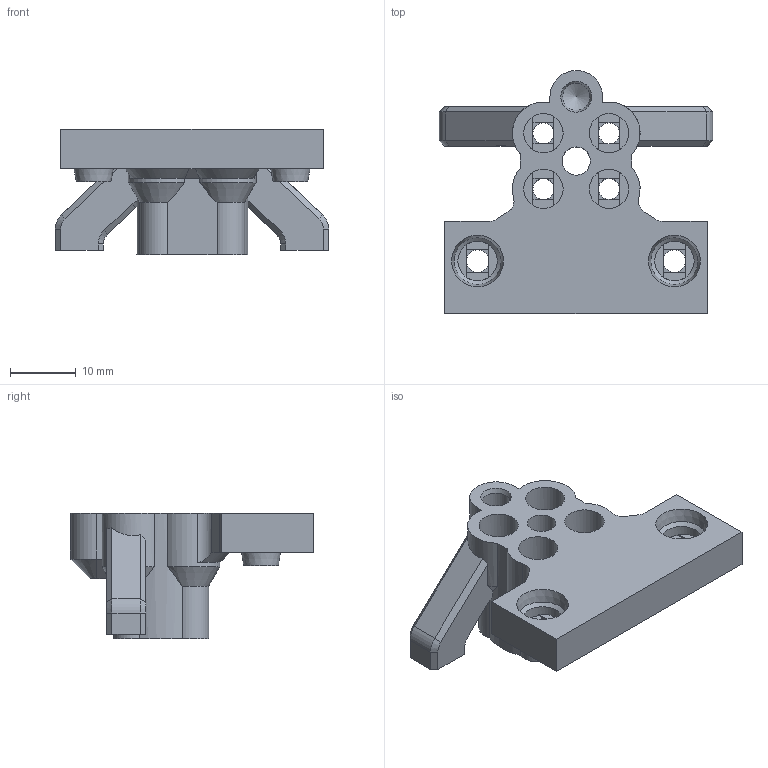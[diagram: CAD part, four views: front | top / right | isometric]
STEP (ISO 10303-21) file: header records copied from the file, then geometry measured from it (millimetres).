
FILE_DESCRIPTION(/* description */ (''),/* implementation_level */ '2;1');
FILE_NAME(/* name */ 'HMG7-E3D-Revo-Voron-Mount.step',/* time_stamp */ '2022-11-01T21:34:02-07:00',/* author */ (''),/* organization */ (''),/* preprocessor_version */ 'ST-DEVELOPER v19.2',/* originating_system */ 'Autodesk Translation Framework v11.17.0.187',/* authorisation */ '');
FILE_SCHEMA (('AUTOMOTIVE_DESIGN { 1 0 10303 214 3 1 1 }'));
Length unit declared in the file: millimetre
Products named in the file (3): GEN_7_1.5; Revo_Voron; Revo_Voron_Mount
Assembly tree (2 placements, depth 3):
  GEN_7_1.5
    Revo_Voron
      Revo_Voron_Mount
Bounding box: 41.64 x 37.03 x 19.13 mm (x, y, z)
Volume: 8226.4 mm3; surface area: 5738 mm2
Topology: 1 solids, 1 shells, 187 faces, 488 edges, 305 vertices
Faces by surface type: plane 123, cylinder 35, cone 29
Full cylindrical faces by diameter (mm): 3.2 x4, 3.4 x2, 4.15 x1, 4.3 x1, 6 x6
Entity records: 5832 total; most frequent: CARTESIAN_POINT 1071, DIRECTION 1002, ORIENTED_EDGE 974, EDGE_CURVE 487, AXIS2_PLACEMENT_3D 343, LINE 316, VECTOR 316, VERTEX_POINT 305
